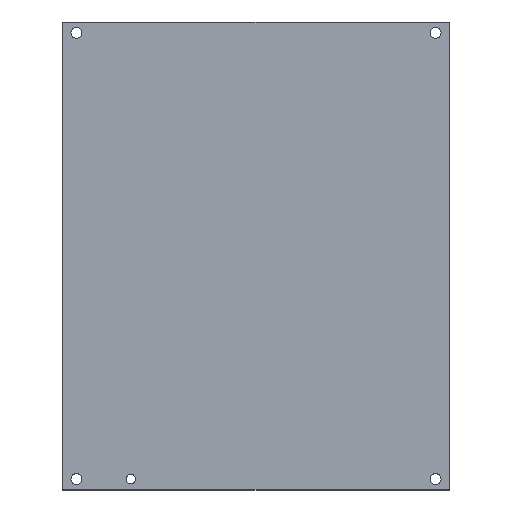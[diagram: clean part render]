
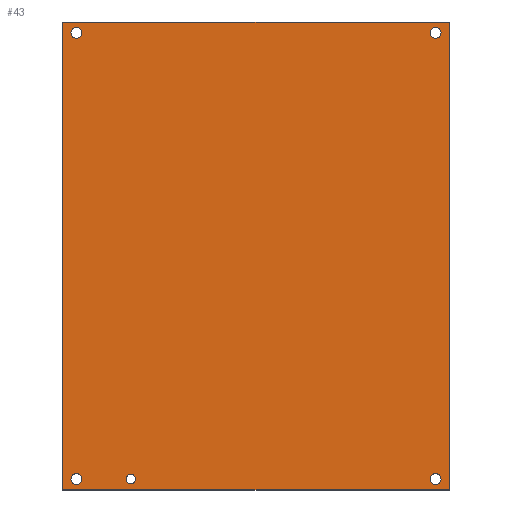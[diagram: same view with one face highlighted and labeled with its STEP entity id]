
A CAD part, top view. The second image highlights one B-rep face of the part: STEP entity #43.
In plain terms, the highlighted planar face has unit normal (0, 0, 1).
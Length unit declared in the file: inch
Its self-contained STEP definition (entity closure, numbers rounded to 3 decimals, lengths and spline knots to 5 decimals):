
#2 = ORIENTED_EDGE ( 'NONE', *, *, #9, .F. ) ;
#9 = EDGE_CURVE ( 'NONE', #111, #64, #287, .T. ) ;
#16 = EDGE_CURVE ( 'NONE', #19, #20, #255, .T. ) ;
#19 = VERTEX_POINT ( 'NONE', #219 ) ;
#20 = VERTEX_POINT ( 'NONE', #218 ) ;
#32 = VERTEX_POINT ( 'NONE', #264 ) ;
#39 = EDGE_LOOP ( 'NONE', ( #103, #105 ) ) ;
#40 = VERTEX_POINT ( 'NONE', #334 ) ;
#42 = EDGE_LOOP ( 'NONE', ( #44, #2 ) ) ;
#43 = ADVANCED_FACE ( 'NONE', ( #346, #342, #333, #319, #302, #343 ), #330, .F. ) ;
#44 = ORIENTED_EDGE ( 'NONE', *, *, #63, .F. ) ;
#46 = VERTEX_POINT ( 'NONE', #301 ) ;
#49 = EDGE_CURVE ( 'NONE', #40, #46, #369, .T. ) ;
#62 = VERTEX_POINT ( 'NONE', #336 ) ;
#63 = EDGE_CURVE ( 'NONE', #64, #111, #372, .T. ) ;
#64 = VERTEX_POINT ( 'NONE', #344 ) ;
#65 = EDGE_CURVE ( 'NONE', #120, #75, #318, .T. ) ;
#66 = EDGE_LOOP ( 'NONE', ( #76, #85 ) ) ;
#67 = EDGE_CURVE ( 'NONE', #73, #72, #314, .T. ) ;
#68 = EDGE_LOOP ( 'NONE', ( #92, #93 ) ) ;
#72 = VERTEX_POINT ( 'NONE', #320 ) ;
#73 = VERTEX_POINT ( 'NONE', #341 ) ;
#74 = ORIENTED_EDGE ( 'NONE', *, *, #108, .T. ) ;
#75 = VERTEX_POINT ( 'NONE', #340 ) ;
#76 = ORIENTED_EDGE ( 'NONE', *, *, #49, .F. ) ;
#78 = EDGE_CURVE ( 'NONE', #62, #32, #338, .T. ) ;
#85 = ORIENTED_EDGE ( 'NONE', *, *, #86, .F. ) ;
#86 = EDGE_CURVE ( 'NONE', #46, #40, #303, .T. ) ;
#87 = EDGE_LOOP ( 'NONE', ( #88, #89 ) ) ;
#88 = ORIENTED_EDGE ( 'NONE', *, *, #110, .F. ) ;
#89 = ORIENTED_EDGE ( 'NONE', *, *, #67, .F. ) ;
#92 = ORIENTED_EDGE ( 'NONE', *, *, #78, .F. ) ;
#93 = ORIENTED_EDGE ( 'NONE', *, *, #94, .F. ) ;
#94 = EDGE_CURVE ( 'NONE', #32, #62, #397, .T. ) ;
#97 = VERTEX_POINT ( 'NONE', #382 ) ;
#98 = ORIENTED_EDGE ( 'NONE', *, *, #119, .T. ) ;
#100 = ORIENTED_EDGE ( 'NONE', *, *, #101, .T. ) ;
#101 = EDGE_CURVE ( 'NONE', #106, #97, #392, .T. ) ;
#102 = EDGE_LOOP ( 'NONE', ( #74, #100, #98, #121 ) ) ;
#103 = ORIENTED_EDGE ( 'NONE', *, *, #16, .F. ) ;
#105 = ORIENTED_EDGE ( 'NONE', *, *, #107, .F. ) ;
#106 = VERTEX_POINT ( 'NONE', #408 ) ;
#107 = EDGE_CURVE ( 'NONE', #20, #19, #395, .T. ) ;
#108 = EDGE_CURVE ( 'NONE', #75, #106, #396, .T. ) ;
#110 = EDGE_CURVE ( 'NONE', #72, #73, #407, .T. ) ;
#111 = VERTEX_POINT ( 'NONE', #403 ) ;
#119 = EDGE_CURVE ( 'NONE', #97, #120, #465, .T. ) ;
#120 = VERTEX_POINT ( 'NONE', #452 ) ;
#121 = ORIENTED_EDGE ( 'NONE', *, *, #65, .T. ) ;
#218 = CARTESIAN_POINT ( 'NONE',  ( 4.25, 5.125, 0.072 ) ) ;
#219 = CARTESIAN_POINT ( 'NONE',  ( 4., 5.125, 0.072 ) ) ;
#226 = DIRECTION ( 'NONE',  ( 1., 0., 0. ) ) ;
#227 = DIRECTION ( 'NONE',  ( 0., 0., 1. ) ) ;
#228 = CARTESIAN_POINT ( 'NONE',  ( 4.125, 5.125, 0.072 ) ) ;
#254 = AXIS2_PLACEMENT_3D ( 'NONE', #228, #227, #226 ) ;
#255 = CIRCLE ( 'NONE', #254, 0.125 ) ;
#264 = CARTESIAN_POINT ( 'NONE',  ( -2.7655, -5.125, 0.072 ) ) ;
#283 = DIRECTION ( 'NONE',  ( 1., 0., 0. ) ) ;
#284 = DIRECTION ( 'NONE',  ( 0., 0., 1. ) ) ;
#285 = CARTESIAN_POINT ( 'NONE',  ( -4.125, -5.125, 0.072 ) ) ;
#286 = AXIS2_PLACEMENT_3D ( 'NONE', #285, #284, #283 ) ;
#287 = CIRCLE ( 'NONE', #286, 0.125 ) ;
#292 = DIRECTION ( 'NONE',  ( 1., 0., 0. ) ) ;
#293 = DIRECTION ( 'NONE',  ( 0., 0., 1. ) ) ;
#294 = CARTESIAN_POINT ( 'NONE',  ( -2.875, -5.125, 0.072 ) ) ;
#295 = AXIS2_PLACEMENT_3D ( 'NONE', #294, #293, #292 ) ;
#301 = CARTESIAN_POINT ( 'NONE',  ( -4., 5.125, 0.072 ) ) ;
#302 = FACE_BOUND ( 'NONE', #87, .T. ) ;
#303 = CIRCLE ( 'NONE', #361, 0.125 ) ;
#309 = CARTESIAN_POINT ( 'NONE',  ( -4.44, 5.375, 0.072 ) ) ;
#310 = AXIS2_PLACEMENT_3D ( 'NONE', #309, #329, #337 ) ;
#314 = CIRCLE ( 'NONE', #325, 0.125 ) ;
#315 = DIRECTION ( 'NONE',  ( -1., 0., 0. ) ) ;
#316 = VECTOR ( 'NONE', #315, 39.37008 ) ;
#317 = CARTESIAN_POINT ( 'NONE',  ( -4.44, 5.375, 0.072 ) ) ;
#318 = LINE ( 'NONE', #317, #316 ) ;
#319 = FACE_BOUND ( 'NONE', #66, .T. ) ;
#320 = CARTESIAN_POINT ( 'NONE',  ( 4., -5.125, 0.072 ) ) ;
#322 = DIRECTION ( 'NONE',  ( 1., 0., 0. ) ) ;
#323 = DIRECTION ( 'NONE',  ( 0., 0., 1. ) ) ;
#324 = CARTESIAN_POINT ( 'NONE',  ( 4.125, -5.125, 0.072 ) ) ;
#325 = AXIS2_PLACEMENT_3D ( 'NONE', #324, #323, #322 ) ;
#329 = DIRECTION ( 'NONE',  ( 0., 0., -1. ) ) ;
#330 = PLANE ( 'NONE',  #310 ) ;
#331 = DIRECTION ( 'NONE',  ( 1., 0., 0. ) ) ;
#333 = FACE_OUTER_BOUND ( 'NONE', #102, .T. ) ;
#334 = CARTESIAN_POINT ( 'NONE',  ( -4.25, 5.125, 0.072 ) ) ;
#335 = CARTESIAN_POINT ( 'NONE',  ( -4.125, -5.125, 0.072 ) ) ;
#336 = CARTESIAN_POINT ( 'NONE',  ( -2.9845, -5.125, 0.072 ) ) ;
#337 = DIRECTION ( 'NONE',  ( -1., 0., 0. ) ) ;
#338 = CIRCLE ( 'NONE', #295, 0.1095 ) ;
#340 = CARTESIAN_POINT ( 'NONE',  ( -4.44, 5.375, 0.072 ) ) ;
#341 = CARTESIAN_POINT ( 'NONE',  ( 4.25, -5.125, 0.072 ) ) ;
#342 = FACE_BOUND ( 'NONE', #39, .T. ) ;
#343 = FACE_BOUND ( 'NONE', #68, .T. ) ;
#344 = CARTESIAN_POINT ( 'NONE',  ( -4.25, -5.125, 0.072 ) ) ;
#345 = DIRECTION ( 'NONE',  ( 1., 0., 0. ) ) ;
#346 = FACE_BOUND ( 'NONE', #42, .T. ) ;
#358 = DIRECTION ( 'NONE',  ( 1., 0., 0. ) ) ;
#359 = DIRECTION ( 'NONE',  ( 0., 0., 1. ) ) ;
#360 = CARTESIAN_POINT ( 'NONE',  ( -4.125, 5.125, 0.072 ) ) ;
#361 = AXIS2_PLACEMENT_3D ( 'NONE', #360, #359, #358 ) ;
#366 = DIRECTION ( 'NONE',  ( 0., 0., 1. ) ) ;
#367 = CARTESIAN_POINT ( 'NONE',  ( -4.125, 5.125, 0.072 ) ) ;
#368 = AXIS2_PLACEMENT_3D ( 'NONE', #367, #366, #331 ) ;
#369 = CIRCLE ( 'NONE', #368, 0.125 ) ;
#370 = DIRECTION ( 'NONE',  ( 0., 0., 1. ) ) ;
#371 = AXIS2_PLACEMENT_3D ( 'NONE', #335, #370, #345 ) ;
#372 = CIRCLE ( 'NONE', #371, 0.125 ) ;
#382 = CARTESIAN_POINT ( 'NONE',  ( 4.44, -5.375, 0.072 ) ) ;
#383 = CARTESIAN_POINT ( 'NONE',  ( 4.125, -5.125, 0.072 ) ) ;
#390 = DIRECTION ( 'NONE',  ( 1., 0., 0. ) ) ;
#391 = CARTESIAN_POINT ( 'NONE',  ( -4.44, -5.375, 0.072 ) ) ;
#392 = LINE ( 'NONE', #391, #410 ) ;
#393 = CARTESIAN_POINT ( 'NONE',  ( 4.125, 5.125, 0.072 ) ) ;
#394 = AXIS2_PLACEMENT_3D ( 'NONE', #393, #402, #401 ) ;
#395 = CIRCLE ( 'NONE', #394, 0.125 ) ;
#396 = LINE ( 'NONE', #400, #399 ) ;
#397 = CIRCLE ( 'NONE', #442, 0.1095 ) ;
#398 = DIRECTION ( 'NONE',  ( 0., -1., 0. ) ) ;
#399 = VECTOR ( 'NONE', #398, 39.37008 ) ;
#400 = CARTESIAN_POINT ( 'NONE',  ( -4.44, -5.375, 0.072 ) ) ;
#401 = DIRECTION ( 'NONE',  ( 1., 0., 0. ) ) ;
#402 = DIRECTION ( 'NONE',  ( 0., 0., 1. ) ) ;
#403 = CARTESIAN_POINT ( 'NONE',  ( -4., -5.125, 0.072 ) ) ;
#404 = DIRECTION ( 'NONE',  ( 1., 0., 0. ) ) ;
#405 = DIRECTION ( 'NONE',  ( 0., 0., 1. ) ) ;
#406 = AXIS2_PLACEMENT_3D ( 'NONE', #383, #405, #404 ) ;
#407 = CIRCLE ( 'NONE', #406, 0.125 ) ;
#408 = CARTESIAN_POINT ( 'NONE',  ( -4.44, -5.375, 0.072 ) ) ;
#409 = DIRECTION ( 'NONE',  ( 1., 0., 0. ) ) ;
#410 = VECTOR ( 'NONE', #409, 39.37008 ) ;
#423 = DIRECTION ( 'NONE',  ( 0., 0., 1. ) ) ;
#442 = AXIS2_PLACEMENT_3D ( 'NONE', #443, #423, #390 ) ;
#443 = CARTESIAN_POINT ( 'NONE',  ( -2.875, -5.125, 0.072 ) ) ;
#452 = CARTESIAN_POINT ( 'NONE',  ( 4.44, 5.375, 0.072 ) ) ;
#462 = DIRECTION ( 'NONE',  ( 0., 1., 0. ) ) ;
#463 = VECTOR ( 'NONE', #462, 39.37008 ) ;
#464 = CARTESIAN_POINT ( 'NONE',  ( 4.44, -5.375, 0.072 ) ) ;
#465 = LINE ( 'NONE', #464, #463 ) ;
